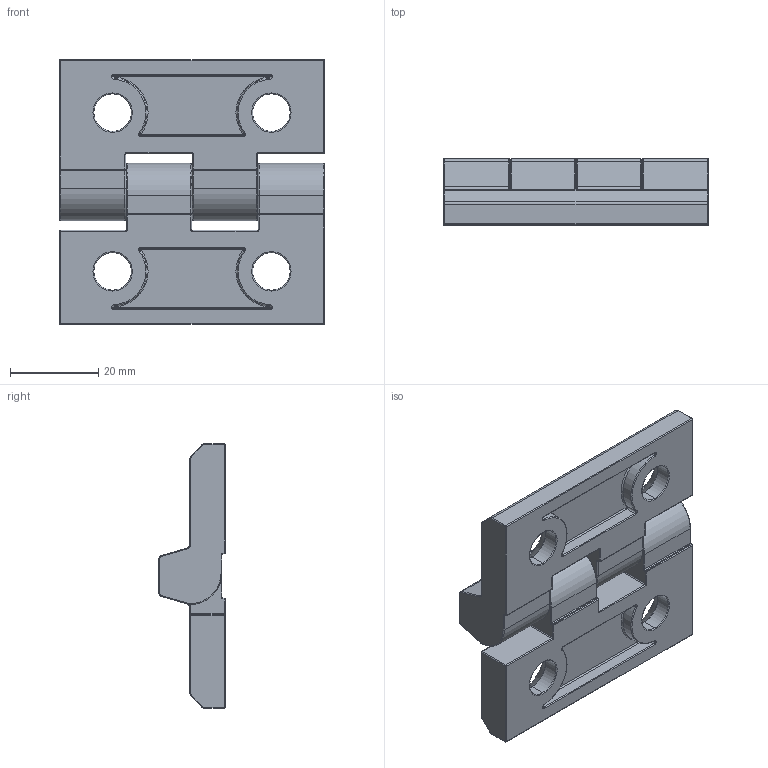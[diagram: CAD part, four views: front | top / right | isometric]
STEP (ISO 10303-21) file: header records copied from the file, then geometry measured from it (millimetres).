
FILE_DESCRIPTION (( 'STEP AP214' ), '1' );
FILE_NAME ('HGS-226-MP-1.STEP', '2019-11-11T07:52:36', ( '' ), ( '' ), 'SwSTEP 2.0', 'SolidWorks 2010', '' );
FILE_SCHEMA (( 'AUTOMOTIVE_DESIGN' ));
Length unit declared in the file: millimetre
Products named in the file (3): 鉸鏈片; HGS-226-MP-1; 插銷
Assembly tree (3 placements, depth 2):
  HGS-226-MP-1
    插銷
    鉸鏈片  x2
Bounding box: 60 x 15 x 60 mm (x, y, z)
Volume: 25200 mm3; surface area: 14044 mm2
Topology: 3 solids, 3 shells, 398 faces, 922 edges, 510 vertices
Faces by surface type: cylinder 172, torus 140, plane 54, sphere 20, cone 8, bspline 4
Entity records: 5856 total; most frequent: DIRECTION 1146, CARTESIAN_POINT 1058, ORIENTED_EDGE 908, AXIS2_PLACEMENT_3D 492, EDGE_CURVE 454, CIRCLE 286, VERTEX_POINT 256, EDGE_LOOP 208
